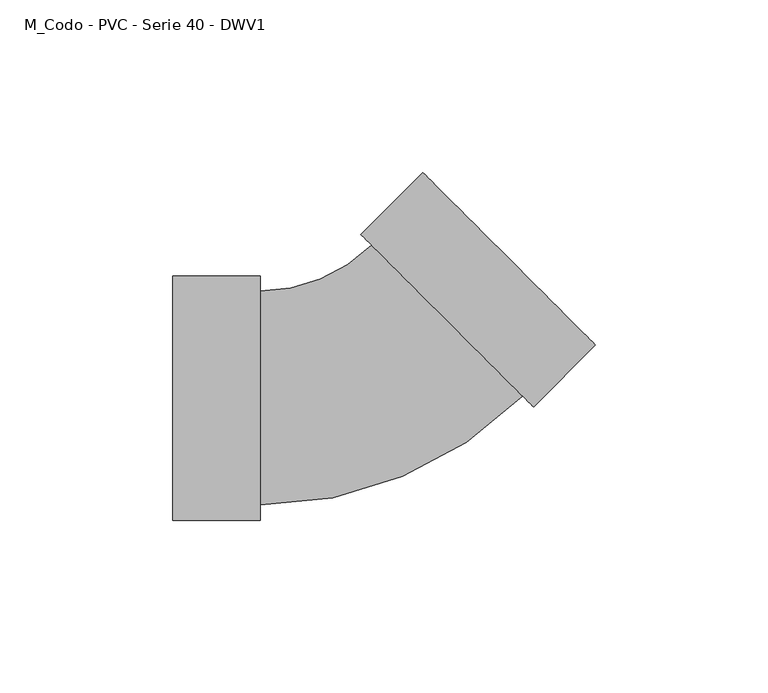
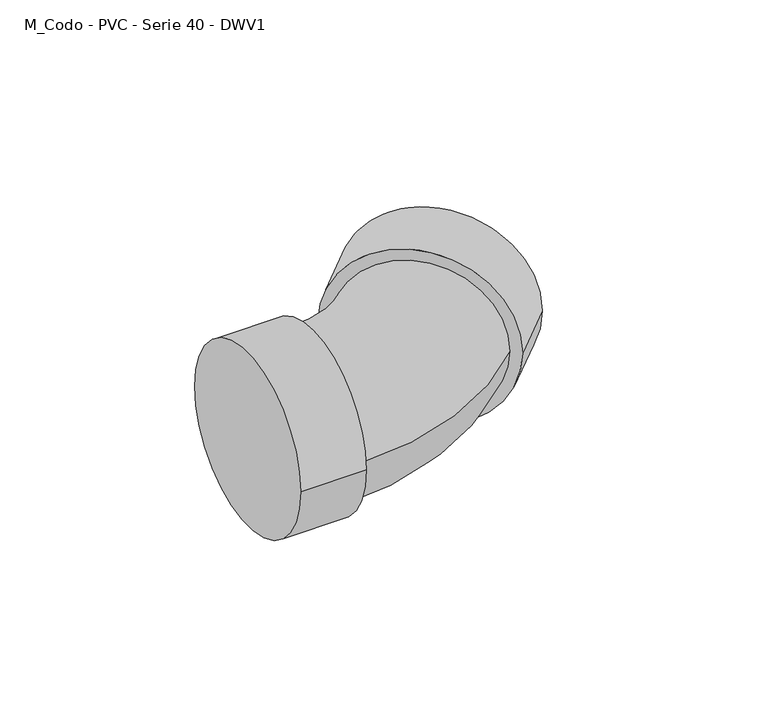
"""IFC4 building model written with IfcOpenShell, lengths in millimetres: pipe fitting geometry, M_Codo - PVC - Serie 40 - DWV1 : Estándar 2."""

from ifc_helpers import new_model, si_unit, point, frame, origin, place, context, project, spatial, circle_curve, ellipse_curve, trimmed, source, transform, mapped, element, save
from ifc_brep_helpers import plane_surface, cylinder_surface, revolved_surface, advanced_brep


def m_codo_pvc_serie_40_dwv1_f185b9cd(model_context):
    return source(origin(), model_context, "Body", "AdvancedBrep", [
        advanced_brep(
        [(-57.1420625, -35.4191094, 0.0), (-57.1420625, 35.4191094, 0.0), (-31.7420625, -35.4191094, 0.0), (-31.7420625, 35.4191094, 0.0), (-31.7420625, -30.9800625, 0.0), (-31.7420625, 30.9800625, 0.0), (0.5387066, 44.3512412, 0.0), (44.3512386, 0.5389241, 0.0), (47.4901264, -2.5999484, 0.0), (-2.6001812, 47.4901137, 0.0), (65.4505947, 15.3606079, 0.0), (15.360287, 65.45067, 0.0)],
        [
            (0, 1, circle_curve(frame((-57.1420625, 0.0, 0.0), z_axis=(-1.0, 0.0, 0.0), x_axis=(0.0, 1.0, 0.0)), 35.4191094)),
            (1, 0, circle_curve(frame((-57.1420625, 0.0, 0.0), z_axis=(-1.0, 0.0, 0.0), x_axis=(0.0, 1.0, 0.0)), 35.4191094)),
            (2, 3, circle_curve(frame((-31.7420625, 0.0, 0.0), z_axis=(1.0, 0.0, 0.0), x_axis=(0.0, 1.0, 0.0)), 35.4191094)),
            (3, 2, circle_curve(frame((-31.7420625, 0.0, 0.0), z_axis=(1.0, 0.0, 0.0), x_axis=(0.0, 1.0, 0.0)), 35.4191094)),
            (4, 5, circle_curve(frame((-31.7420625, 0.0, 0.0), z_axis=(-1.0, 0.0, 0.0), x_axis=(0.0, 1.0, 0.0)), 30.9800625)),
            (5, 4, circle_curve(frame((-31.7420625, 0.0, 0.0), z_axis=(-1.0, 0.0, 0.0), x_axis=(0.0, 1.0, 0.0)), 30.9800625)),
            (0, 2),
            (3, 1),
            (6, 5, circle_curve(frame((-31.7420625, 76.6318521, 0.0), z_axis=(0.0, 0.0, -1.0), x_axis=(0.0, -1.0, 0.0)), 45.6517896)),
            (4, 7, circle_curve(frame((-31.7420625, 76.6318521, 0.0), z_axis=(0.0, 0.0, 1.0), x_axis=(0.0, -1.0, 0.0)), 107.6119146)),
            (7, 6, circle_curve(frame((22.4449726, 22.4450827, 0.0), z_axis=(-0.7071050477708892, -0.7071085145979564, 0.0), x_axis=(-0.7071085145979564, 0.7071050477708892, 0.0)), 30.9800625)),
            (6, 7, circle_curve(frame((22.4449726, 22.4450827, 0.0), z_axis=(-0.7071050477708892, -0.7071085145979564, 0.0), x_axis=(-0.7071085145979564, 0.7071050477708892, 0.0)), 30.9800625)),
            (8, 9, circle_curve(frame((22.4449726, 22.4450827, 0.0), z_axis=(-0.7071050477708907, -0.7071085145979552, 0.0), x_axis=(-0.7071085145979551, 0.7071050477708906, 0.0)), 35.4191094)),
            (9, 8, circle_curve(frame((22.4449726, 22.4450827, 0.0), z_axis=(-0.7071050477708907, -0.7071085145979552, 0.0), x_axis=(-0.7071085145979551, 0.7071050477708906, 0.0)), 35.4191094)),
            (10, 11, circle_curve(frame((40.4054408, 40.4056389, 0.0), z_axis=(0.7071050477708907, 0.7071085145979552, 0.0), x_axis=(-0.7071085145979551, 0.7071050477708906, 0.0)), 35.4191094)),
            (11, 10, circle_curve(frame((40.4054408, 40.4056389, 0.0), z_axis=(0.7071050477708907, 0.7071085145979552, 0.0), x_axis=(-0.7071085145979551, 0.7071050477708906, 0.0)), 35.4191094)),
            (8, 10),
            (11, 9),
        ],
        [
            plane_surface(frame((-57.1420625, 0.0, 0.0), z_axis=(-1.0, 0.0, 0.0), x_axis=(0.0, 0.0, 1.0))),
            plane_surface(frame((-31.7420625, 0.0, 0.0), z_axis=(1.0, 0.0, 0.0), x_axis=(0.0, 0.0, 1.0))),
            cylinder_surface(frame((-57.1420625, 0.0, 0.0), z_axis=(-1.0, 0.0, 0.0), x_axis=(0.0, 1.0, 0.0)), 35.4191094),
            revolved_surface(trimmed(ellipse_curve(frame((-31.7420625, 0.0, 0.0), z_axis=(-1.0, 0.0, 0.0), x_axis=(0.0, 1.0, 0.0)), 30.9800625, 30.9800625), [point((-31.7420625, -30.9800625, 0.0))], [point((-31.7420625, 30.9800625, 0.0))], True, "CARTESIAN"), (-31.7420625, 76.6318521, 0.0), (0.0, 0.0, 1.0)),
            revolved_surface(trimmed(ellipse_curve(frame((-31.7420625, 0.0, 0.0), z_axis=(-1.0, 0.0, 0.0), x_axis=(0.0, 1.0, 0.0)), 30.9800625, 30.9800625), [point((-31.7420625, 30.9800625, 0.0))], [point((-31.7420625, -30.9800625, 0.0))], True, "CARTESIAN"), (-31.7420625, 76.6318521, 0.0), (0.0, 0.0, 1.0)),
            plane_surface(frame((22.4449726, 22.4450827, 0.0), z_axis=(-0.7071050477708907, -0.7071085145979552, 0.0), x_axis=(0.0, 0.0, 1.0))),
            plane_surface(frame((40.4054408, 40.4056389, 0.0), z_axis=(0.7071050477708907, 0.7071085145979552, 0.0), x_axis=(0.0, 0.0, 1.0))),
            cylinder_surface(frame((22.4449726, 22.4450827, 0.0), z_axis=(-0.7071050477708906, -0.7071085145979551, 0.0), x_axis=(-0.7071085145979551, 0.7071050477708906, 0.0)), 35.4191094),
        ],
        [
            (0, [[1, 2]]),
            (1, [[3, 4], [5, 6]]),
            (2, [[-1, 7, -4, 8]]),
            (2, [[-2, -8, -3, -7]]),
            (3, [[9, -5, 10, 11]]),
            (4, [[-9, 12, -10, -6]]),
            (5, [[13, 14], [-11, -12]]),
            (6, [[15, 16]]),
            (7, [[-13, 17, -16, 18]]),
            (7, [[-14, -18, -15, -17]]),
        ],
    ),
    ])


if __name__ == "__main__":
    model = new_model("IFC4")
    model_context = context("Model", 3, world=origin())
    ifc_project = project(units=[si_unit("LENGTHUNIT", "METRE", prefix="MILLI")], contexts=[model_context])
    site = spatial("IfcSite", under=ifc_project)
    building = spatial("IfcBuilding", under=site)
    placement = place(None, origin())
    m_codo_pvc_serie_40_dwv1_shape = m_codo_pvc_serie_40_dwv1_f185b9cd(model_context)
    element("IfcPipeFitting", 1, ObjectType="M_Codo - PVC - Serie 40 - DWV1 : Estándar 2", at=placement, inside=building, context=model_context, shape_type="MappedRepresentation", body=[
        mapped(m_codo_pvc_serie_40_dwv1_shape, transform((0.0, 0.0, 0.0), x_axis=(1.0, 0.0, 0.0), y_axis=(0.0, 1.0, 0.0), z_axis=(0.0, 0.0, 1.0))),
    ])
    save(model, "model.ifc")
